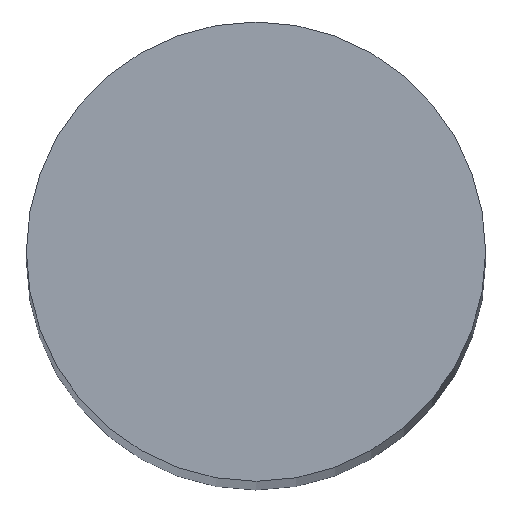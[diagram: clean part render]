
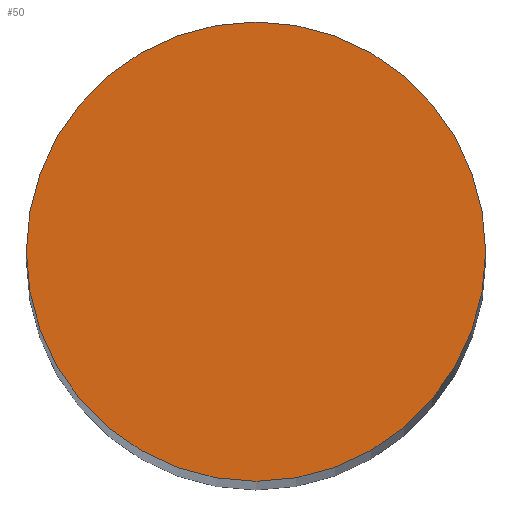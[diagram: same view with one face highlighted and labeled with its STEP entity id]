
A CAD part, top view. The second image highlights one B-rep face of the part: STEP entity #50.
In plain terms, the highlighted planar face has unit normal (0, 0, 1).
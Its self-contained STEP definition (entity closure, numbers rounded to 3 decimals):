
#21 = EDGE_CURVE('',#22,#22,#24,.T.);
#22 = VERTEX_POINT('',#23);
#23 = CARTESIAN_POINT('',(6.,0.,107.5));
#24 = CIRCLE('',#25,6.);
#25 = AXIS2_PLACEMENT_3D('',#26,#27,#28);
#26 = CARTESIAN_POINT('',(0.,0.,107.5));
#27 = DIRECTION('',(0.,0.,1.));
#28 = DIRECTION('',(1.,0.,-0.));
#50 = ADVANCED_FACE('',(#51),#54,.T.);
#51 = FACE_BOUND('',#52,.T.);
#52 = EDGE_LOOP('',(#53));
#53 = ORIENTED_EDGE('',*,*,#21,.T.);
#54 = PLANE('',#55);
#55 = AXIS2_PLACEMENT_3D('',#56,#57,#58);
#56 = CARTESIAN_POINT('',(0.,0.,107.5));
#57 = DIRECTION('',(0.,0.,1.));
#58 = DIRECTION('',(1.,0.,-0.));
